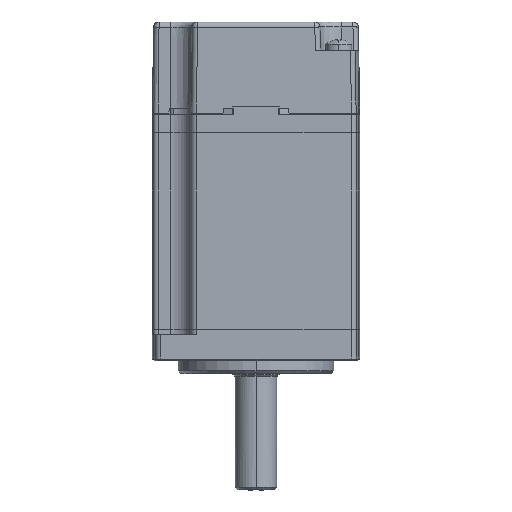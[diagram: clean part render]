
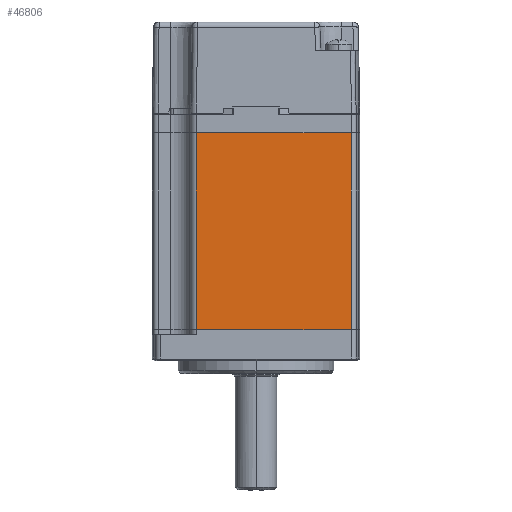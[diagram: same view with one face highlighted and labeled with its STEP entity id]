
A CAD part, front view. The second image highlights one B-rep face of the part: STEP entity #46806.
In plain terms, the highlighted planar face has unit normal (0, -1, 0).
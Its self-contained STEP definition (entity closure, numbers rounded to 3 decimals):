
#2529 = CARTESIAN_POINT ( 'NONE',  ( 18.397, -20., 0. ) ) ;
#8906 = EDGE_CURVE ( 'NONE', #49326, #30058, #47186, .T. ) ;
#11517 = LINE ( 'NONE', #65579, #36194 ) ;
#13082 = VERTEX_POINT ( 'NONE', #30968 ) ;
#13523 = CARTESIAN_POINT ( 'NONE',  ( 0., -20., -38. ) ) ;
#25051 = LINE ( 'NONE', #79144, #59919 ) ;
#27937 = AXIS2_PLACEMENT_3D ( 'NONE', #88105, #36389, #41722 ) ;
#28108 = VECTOR ( 'NONE', #63652, 1000. ) ;
#30058 = VERTEX_POINT ( 'NONE', #70198 ) ;
#30476 = LINE ( 'NONE', #13523, #49481 ) ;
#30968 = CARTESIAN_POINT ( 'NONE',  ( -11.5, -20., -38. ) ) ;
#36194 = VECTOR ( 'NONE', #41880, 1000. ) ;
#36389 = DIRECTION ( 'NONE',  ( 0., 1., 0. ) ) ;
#40460 = DIRECTION ( 'NONE',  ( 0., 0., 1. ) ) ;
#41722 = DIRECTION ( 'NONE',  ( 0., 0., 1. ) ) ;
#41880 = DIRECTION ( 'NONE',  ( -1., 0., 0. ) ) ;
#46806 = ADVANCED_FACE ( 'NONE', ( #73653 ), #57699, .F. ) ;
#47186 = LINE ( 'NONE', #54409, #28108 ) ;
#47526 = EDGE_CURVE ( 'NONE', #30058, #13082, #30476, .T. ) ;
#49151 = CARTESIAN_POINT ( 'NONE',  ( -11.5, -20., 0. ) ) ;
#49326 = VERTEX_POINT ( 'NONE', #2529 ) ;
#49481 = VECTOR ( 'NONE', #83036, 1000. ) ;
#54409 = CARTESIAN_POINT ( 'NONE',  ( 18.397, -20., -38. ) ) ;
#57699 = PLANE ( 'NONE',  #27937 ) ;
#59261 = ORIENTED_EDGE ( 'NONE', *, *, #69611, .T. ) ;
#59919 = VECTOR ( 'NONE', #40460, 1000. ) ;
#63652 = DIRECTION ( 'NONE',  ( 0., 0., -1. ) ) ;
#65579 = CARTESIAN_POINT ( 'NONE',  ( 0., -20., 0. ) ) ;
#68309 = ORIENTED_EDGE ( 'NONE', *, *, #47526, .F. ) ;
#69611 = EDGE_CURVE ( 'NONE', #49326, #80916, #11517, .T. ) ;
#70198 = CARTESIAN_POINT ( 'NONE',  ( 18.397, -20., -38. ) ) ;
#73653 = FACE_OUTER_BOUND ( 'NONE', #85784, .T. ) ;
#79144 = CARTESIAN_POINT ( 'NONE',  ( -11.5, -20., -38. ) ) ;
#80916 = VERTEX_POINT ( 'NONE', #49151 ) ;
#83036 = DIRECTION ( 'NONE',  ( -1., 0., 0. ) ) ;
#85165 = ORIENTED_EDGE ( 'NONE', *, *, #98170, .F. ) ;
#85784 = EDGE_LOOP ( 'NONE', ( #94632, #59261, #85165, #68309 ) ) ;
#88105 = CARTESIAN_POINT ( 'NONE',  ( -20., -20., -38. ) ) ;
#94632 = ORIENTED_EDGE ( 'NONE', *, *, #8906, .F. ) ;
#98170 = EDGE_CURVE ( 'NONE', #13082, #80916, #25051, .T. ) ;
